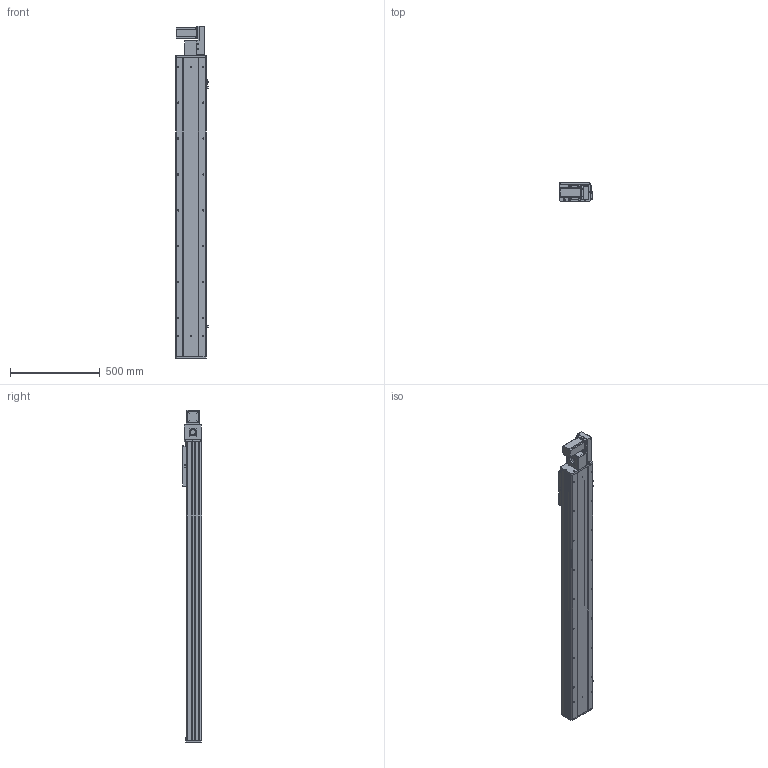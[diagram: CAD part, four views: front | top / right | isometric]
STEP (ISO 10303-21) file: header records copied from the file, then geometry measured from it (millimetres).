
FILE_DESCRIPTION (( 'STEP AP203' ), '1' );
FILE_NAME ('Y170CB-D105-S1350-BR-P400W.STEP', '2020-02-19T09:17:15', ( '微软用户' ), ( '微软中国' ), 'SwSTEP 2.0', 'SolidWorks 2017', '' );
FILE_SCHEMA (( 'CONFIG_CONTROL_DESIGN' ));
Length unit declared in the file: millimetre
Products named in the file (17): 70B喘謫眊----; B-源倛裔啣; 17B-耜蚾蟀諉啣----; 0B-萇儂楊擘啣; san松下电机400不带刹车----; Y70俋欶BR----; 70CB-掛极-; --70CB --喘謫眊楊擘啣-; 70CB-耜裔啣-; 70C--詩湍揤踡え-; 70CB--耜裔; 70C-雄赽釱-奻-; 0C--雄赽釱俋欶-170; 70CB-詩湍--; Y100-135俋离換覜ん--; Y170CB-陔俋离換覜結え---; Y170CB-D105-S1350-BR-P400W
Assembly tree (20 placements, depth 2):
  Y170CB-D105-S1350-BR-P400W
    70B喘謫眊----
    B-源倛裔啣
    17B-耜蚾蟀諉啣----
    0B-萇儂楊擘啣
    san松下电机400不带刹车----
    Y70俋欶BR----
    70CB-掛极-
    --70CB --喘謫眊楊擘啣-
    70CB-耜裔啣-  x2
    70C--詩湍揤踡え-  x2
    70CB--耜裔
    70C-雄赽釱-奻-
    0C--雄赽釱俋欶-170
    70CB-詩湍--
    Y100-135俋离換覜ん--  x3
    Y170CB-陔俋离換覜結え---
Bounding box: 183.5 x 107 x 1847 mm (x, y, z)
Volume: 7910137.1 mm3; surface area: 2835575.4 mm2
Topology: 20 solids, 20 shells, 1009 faces, 2705 edges, 1794 vertices
Faces by surface type: cylinder 523, plane 462, cone 24
Entity records: 32043 total; most frequent: CARTESIAN_POINT 5901, DIRECTION 5212, ORIENTED_EDGE 4892, EDGE_CURVE 2446, AXIS2_PLACEMENT_3D 1905, VERTEX_POINT 1624, VECTOR 1402, LINE 1402
